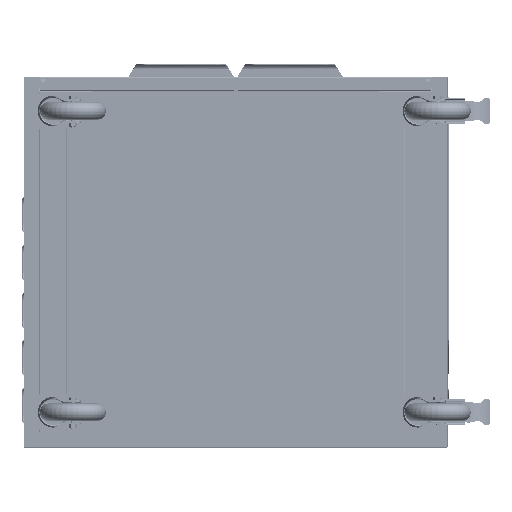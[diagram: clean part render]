
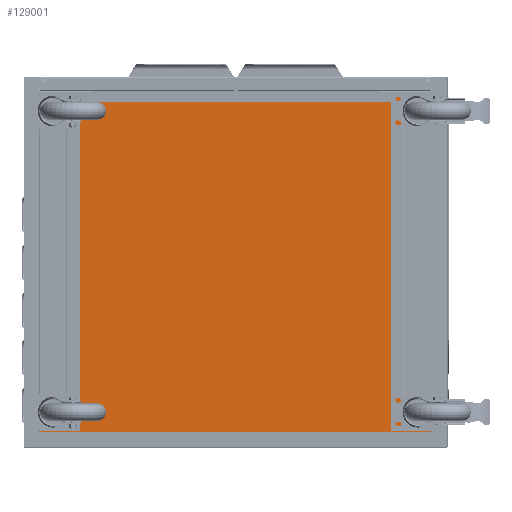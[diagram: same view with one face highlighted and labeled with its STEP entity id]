
A CAD part, front view. The second image highlights one B-rep face of the part: STEP entity #129001.
In plain terms, the highlighted planar face has unit normal (0, -1, 0).
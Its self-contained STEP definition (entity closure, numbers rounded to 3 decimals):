
#17878 = DIRECTION ( 'NONE',  ( 1., 0., 0. ) ) ;
#28542 = CARTESIAN_POINT ( 'NONE',  ( -369.75, -8.618, 320.15 ) ) ;
#39247 = CARTESIAN_POINT ( 'NONE',  ( -369.75, -8.618, 320.15 ) ) ;
#48590 = LINE ( 'NONE', #230140, #302749 ) ;
#64849 = LINE ( 'NONE', #323200, #129517 ) ;
#74375 = CARTESIAN_POINT ( 'NONE',  ( 0., -8.618, 0. ) ) ;
#88522 = LINE ( 'NONE', #236883, #246087 ) ;
#95772 = EDGE_CURVE ( 'NONE', #311617, #260933, #64849, .T. ) ;
#96130 = DIRECTION ( 'NONE',  ( 0., 0., 1. ) ) ;
#112037 = VERTEX_POINT ( 'NONE', #166210 ) ;
#115914 = DIRECTION ( 'NONE',  ( -1., 0., 0. ) ) ;
#129001 = ADVANCED_FACE ( 'NONE', ( #220885 ), #162386, .F. ) ;
#129517 = VECTOR ( 'NONE', #96130, 1000. ) ;
#152108 = ORIENTED_EDGE ( 'NONE', *, *, #304932, .F. ) ;
#162386 = PLANE ( 'NONE',  #285364 ) ;
#166210 = CARTESIAN_POINT ( 'NONE',  ( 369.75, -8.618, -320.15 ) ) ;
#166269 = VECTOR ( 'NONE', #208095, 1000. ) ;
#196841 = EDGE_CURVE ( 'NONE', #260933, #351721, #323290, .T. ) ;
#200199 = EDGE_LOOP ( 'NONE', ( #252624, #152108, #229585, #236814 ) ) ;
#208095 = DIRECTION ( 'NONE',  ( 1., 0., 0. ) ) ;
#220885 = FACE_OUTER_BOUND ( 'NONE', #200199, .T. ) ;
#229585 = ORIENTED_EDGE ( 'NONE', *, *, #243605, .F. ) ;
#230140 = CARTESIAN_POINT ( 'NONE',  ( 369.75, -8.618, 320.15 ) ) ;
#231648 = CARTESIAN_POINT ( 'NONE',  ( -369.75, -8.618, -320.15 ) ) ;
#236814 = ORIENTED_EDGE ( 'NONE', *, *, #196841, .F. ) ;
#236883 = CARTESIAN_POINT ( 'NONE',  ( 369.75, -8.618, -320.15 ) ) ;
#238836 = CARTESIAN_POINT ( 'NONE',  ( 369.75, -8.618, 320.15 ) ) ;
#243605 = EDGE_CURVE ( 'NONE', #351721, #112037, #48590, .T. ) ;
#246087 = VECTOR ( 'NONE', #115914, 1000. ) ;
#252624 = ORIENTED_EDGE ( 'NONE', *, *, #95772, .F. ) ;
#260933 = VERTEX_POINT ( 'NONE', #39247 ) ;
#279381 = DIRECTION ( 'NONE',  ( 0., 1., 0. ) ) ;
#285364 = AXIS2_PLACEMENT_3D ( 'NONE', #74375, #279381, #17878 ) ;
#302749 = VECTOR ( 'NONE', #380421, 1000. ) ;
#304932 = EDGE_CURVE ( 'NONE', #112037, #311617, #88522, .T. ) ;
#311617 = VERTEX_POINT ( 'NONE', #231648 ) ;
#323200 = CARTESIAN_POINT ( 'NONE',  ( -369.75, -8.618, -320.15 ) ) ;
#323290 = LINE ( 'NONE', #28542, #166269 ) ;
#351721 = VERTEX_POINT ( 'NONE', #238836 ) ;
#380421 = DIRECTION ( 'NONE',  ( 0., 0., -1. ) ) ;
